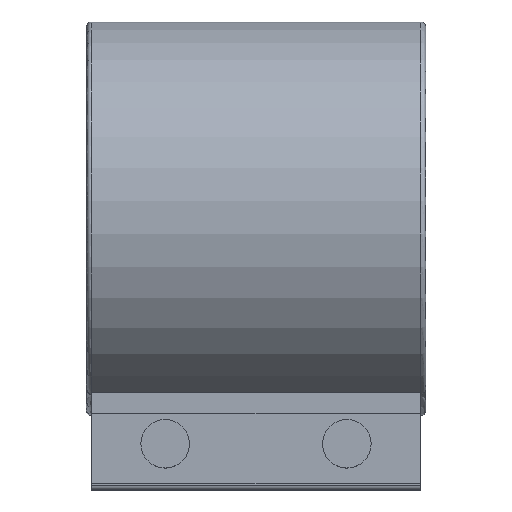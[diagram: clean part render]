
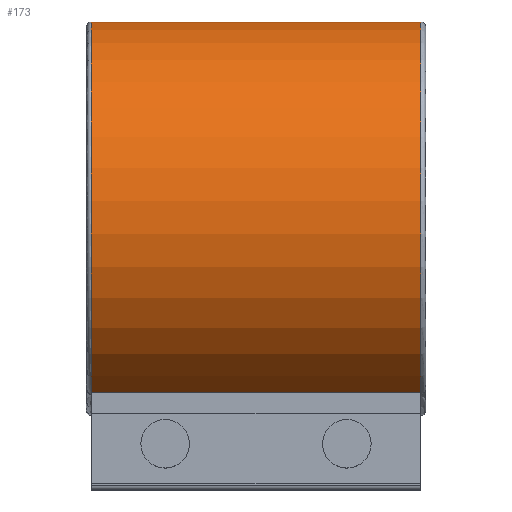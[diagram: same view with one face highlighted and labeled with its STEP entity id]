
A CAD part, top view. The second image highlights one B-rep face of the part: STEP entity #173.
In plain terms, the highlighted cylindrical face has radius 32.5 mm (diameter 65 mm), a partial arc.
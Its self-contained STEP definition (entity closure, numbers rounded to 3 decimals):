
#173 = ADVANCED_FACE( '', ( #409 ), #410, .T. );
#409 = FACE_OUTER_BOUND( '', #714, .T. );
#410 = CYLINDRICAL_SURFACE( '', #715, 32.5 );
#714 = EDGE_LOOP( '', ( #1162, #1163, #1164, #1165 ) );
#715 = AXIS2_PLACEMENT_3D( '', #1166, #1167, #1168 );
#1162 = ORIENTED_EDGE( '', *, *, #1680, .T. );
#1163 = ORIENTED_EDGE( '', *, *, #1681, .T. );
#1164 = ORIENTED_EDGE( '', *, *, #1682, .F. );
#1165 = ORIENTED_EDGE( '', *, *, #1618, .T. );
#1166 = CARTESIAN_POINT( '', ( 28., 0., 0. ) );
#1167 = DIRECTION( '', ( -1., 0., 0. ) );
#1168 = DIRECTION( '', ( 0., 0., -1. ) );
#1618 = EDGE_CURVE( '', #1914, #1831, #1915, .F. );
#1680 = EDGE_CURVE( '', #1831, #1830, #2005, .T. );
#1681 = EDGE_CURVE( '', #1830, #2006, #2007, .T. );
#1682 = EDGE_CURVE( '', #1914, #2006, #2008, .T. );
#1830 = VERTEX_POINT( '', #2201 );
#1831 = VERTEX_POINT( '', #2202 );
#1914 = VERTEX_POINT( '', #2315 );
#1915 = LINE( '', #2316, #2317 );
#2005 = CIRCLE( '', #2434, 32.5 );
#2006 = VERTEX_POINT( '', #2435 );
#2007 = LINE( '', #2436, #2437 );
#2008 = CIRCLE( '', #2438, 32.5 );
#2201 = CARTESIAN_POINT( '', ( -27.22, -28.909, 14.85 ) );
#2202 = CARTESIAN_POINT( '', ( -27.22, -29.16, 14.35 ) );
#2315 = CARTESIAN_POINT( '', ( 27.22, -29.16, 14.35 ) );
#2316 = CARTESIAN_POINT( '', ( 28., -29.16, 14.35 ) );
#2317 = VECTOR( '', #2697, 1000. );
#2434 = AXIS2_PLACEMENT_3D( '', #2773, #2774, #2775 );
#2435 = CARTESIAN_POINT( '', ( 27.22, -28.909, 14.85 ) );
#2436 = CARTESIAN_POINT( '', ( 28., -28.909, 14.85 ) );
#2437 = VECTOR( '', #2776, 1000. );
#2438 = AXIS2_PLACEMENT_3D( '', #2777, #2778, #2779 );
#2697 = DIRECTION( '', ( 1., 0., 0. ) );
#2773 = CARTESIAN_POINT( '', ( -27.22, 0., 0. ) );
#2774 = DIRECTION( '', ( 1., 0., 0. ) );
#2775 = DIRECTION( '', ( 0., 0., -1. ) );
#2776 = DIRECTION( '', ( 1., 0., 0. ) );
#2777 = CARTESIAN_POINT( '', ( 27.22, 0., 0. ) );
#2778 = DIRECTION( '', ( 1., 0., 0. ) );
#2779 = DIRECTION( '', ( 0., 0., -1. ) );
